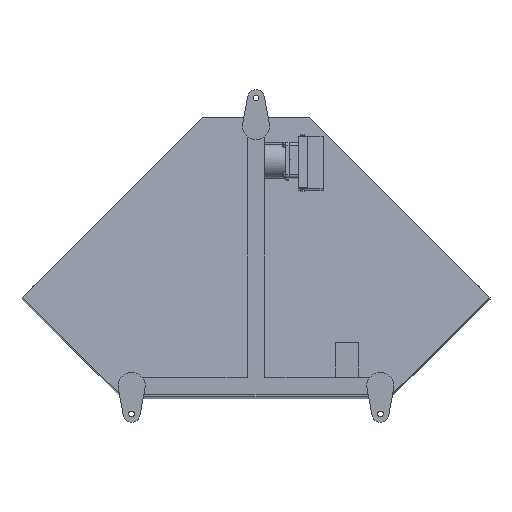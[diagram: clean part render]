
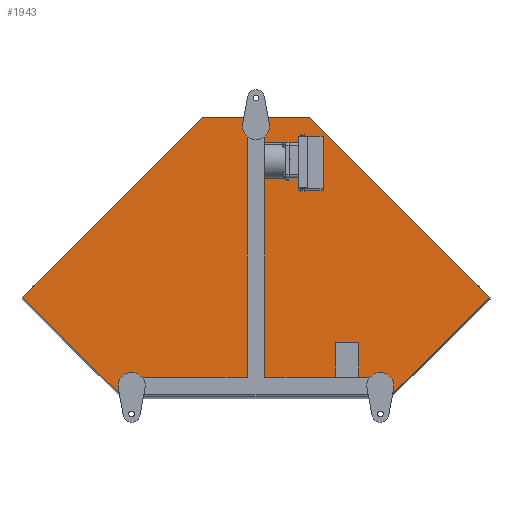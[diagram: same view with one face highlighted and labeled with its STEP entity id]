
A CAD part, front view. The second image highlights one B-rep face of the part: STEP entity #1943.
In plain terms, the highlighted planar face has unit normal (0, -0.999, 0.034).
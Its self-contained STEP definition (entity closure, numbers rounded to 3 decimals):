
#1943=ADVANCED_FACE('',(#5908),#5907,.T.);
#5907=PLANE('',#15232);
#5908=FACE_OUTER_BOUND('',#15233,.T.);
#15229=CARTESIAN_POINT('',(-536.795,-89.026,-110.006));
#15230=DIRECTION('',(0.,-0.999,0.034));
#15231=DIRECTION('',(0.,-0.034,-0.999));
#15232=AXIS2_PLACEMENT_3D('',#15229,#15230,#15231);
#15233=EDGE_LOOP('',(#21724,#21725,#21726,#21727,#21728,#21729));
#21724=ORIENTED_EDGE('',*,*,#25882,.T.);
#21725=ORIENTED_EDGE('',*,*,#25867,.T.);
#21726=ORIENTED_EDGE('',*,*,#25881,.T.);
#21727=ORIENTED_EDGE('',*,*,#25879,.T.);
#21728=ORIENTED_EDGE('',*,*,#25876,.T.);
#21729=ORIENTED_EDGE('',*,*,#25870,.T.);
#25867=EDGE_CURVE('',#32950,#32943,#32951,.T.);
#25870=EDGE_CURVE('',#32970,#32963,#32971,.T.);
#25876=EDGE_CURVE('',#32996,#32970,#33010,.T.);
#25879=EDGE_CURVE('',#33016,#32996,#33030,.T.);
#25881=EDGE_CURVE('',#32943,#33016,#33042,.T.);
#25882=EDGE_CURVE('',#32963,#32950,#33048,.T.);
#32943=VERTEX_POINT('',#49661);
#32950=VERTEX_POINT('',#49665);
#32951=LINE('',#49666,#49667);
#32963=VERTEX_POINT('',#49672);
#32970=VERTEX_POINT('',#49676);
#32971=LINE('',#49677,#49678);
#32996=VERTEX_POINT('',#49690);
#33010=LINE('',#49698,#49699);
#33016=VERTEX_POINT('',#49701);
#33030=LINE('',#49709,#49710);
#33042=LINE('',#49715,#49716);
#33048=LINE('',#49718,#49719);
#49661=CARTESIAN_POINT('',(-526.795,-103.043,-526.564));
#49665=CARTESIAN_POINT('',(-120.,-89.362,-120.));
#49666=CARTESIAN_POINT('',(-120.,-89.362,-120.));
#49667=VECTOR('',#49668,575.294);
#49668=DIRECTION('',(-0.707,-0.024,-0.707));
#49672=CARTESIAN_POINT('',(120.,-89.362,-120.));
#49676=CARTESIAN_POINT('',(526.795,-103.043,-526.564));
#49677=CARTESIAN_POINT('',(526.795,-103.043,-526.564));
#49678=VECTOR('',#49679,575.294);
#49679=DIRECTION('',(-0.707,0.024,0.707));
#49690=CARTESIAN_POINT('',(300.,-110.549,-749.644));
#49698=CARTESIAN_POINT('',(300.,-110.549,-749.644));
#49699=VECTOR('',#49700,318.208);
#49700=DIRECTION('',(0.713,0.024,0.701));
#49701=CARTESIAN_POINT('',(-300.,-110.549,-749.644));
#49709=CARTESIAN_POINT('',(-300.,-110.549,-749.644));
#49710=VECTOR('',#49711,600.);
#49711=DIRECTION('',(1.,0.,0.));
#49715=CARTESIAN_POINT('',(-526.795,-103.043,-526.564));
#49716=VECTOR('',#49717,318.208);
#49717=DIRECTION('',(0.713,-0.024,-0.701));
#49718=CARTESIAN_POINT('',(120.,-89.362,-120.));
#49719=VECTOR('',#49720,240.);
#49720=DIRECTION('',(-1.,0.,0.));
